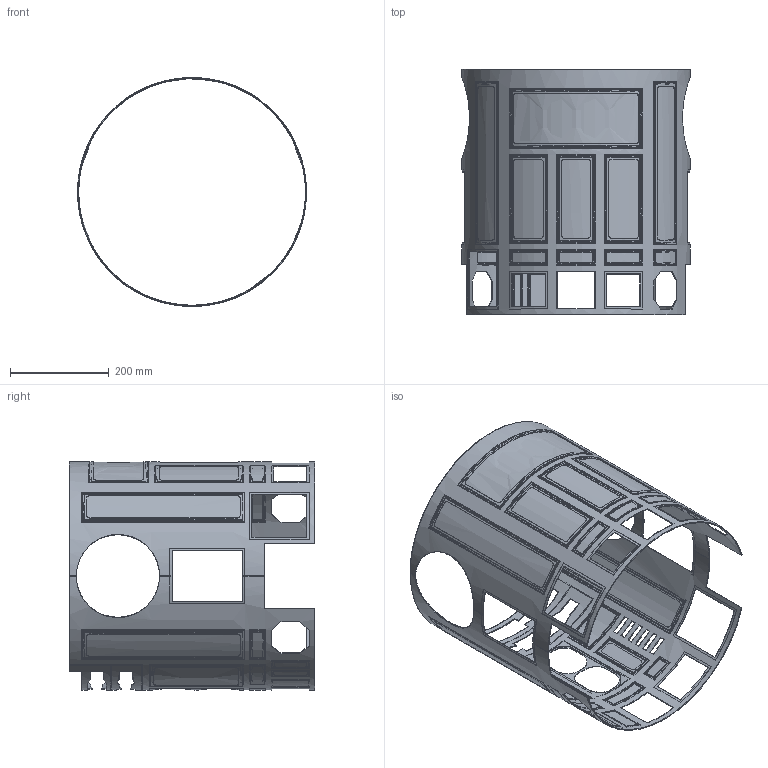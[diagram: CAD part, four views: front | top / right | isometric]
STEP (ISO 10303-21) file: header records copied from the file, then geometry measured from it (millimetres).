
FILE_DESCRIPTION(('STEP AP203'),'1');
FILE_NAME('C:/Documents and Settings/Administrator/My Documents/Dropbox/R2 Everything/R2-D2 Master/Drawings/CSR/CSR - CAD/CSR SKIN Rolled Assembly ESB - 20140501 3D - STEP.stp','2014-05-22T05:25:39',(' '),(' '),'Spatial InterOp 3D',' ',' ');
FILE_SCHEMA(('CONFIG_CONTROL_DESIGN'));
Length unit declared in the file: metre
Products named in the file (56): Outer Rear; Part473; Part474; Part475; Part476; Part477; Part478; Part479; Part480; Part481; Part482; Part67; ESB Skins; Front Outer; Part484; Part485; Part486; Part487; Part488; Part489; Part490; Part491; Part492; Part493; Part494; Part495; Part496; Part497; Part68; Part117; Rear Inside; Part40; Part41; Part42; Part43; Part44; Part45; Part46; Part47; Part48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
Assembly tree (55 placements, depth 3):
  ESB Skins
    Outer Rear
      Part473
      Part474
      Part475
      Part476
      Part477
      Part478
      Part479
      Part480
      Part481
      Part482
      Part67
    Front Outer
      Part484
      Part485
      Part486
      Part487
      Part488
      Part489
      Part490
      Part491
      Part492
      Part493
      Part494
      Part495
      Part496
      Part497
      Part68
      Part117
    Rear Inside
      Part40
      Part41
      Part42
      Part43
      Part44
      Part45
      Part46
      Part47
      Part48
      Part49
      Part69
    Front Inside
      Part50
      Part51
      Part52
      Part53
      Part54
      Part55
      Part56
      Part57
      Part58
      Part59
      Part60
      Part61
      Part73
Bounding box: 463.55 x 496.89 x 463.55 mm (x, y, z)
Volume: 873493.9 mm3; surface area: 1769067.7 mm2
Topology: 51 solids, 51 shells, 804 faces, 2106 edges, 1404 vertices
Faces by surface type: plane 624, bspline 129, offset 51
Entity records: 60954 total; most frequent: CARTESIAN_POINT 40935, ORIENTED_EDGE 4192, DIRECTION 2230, EDGE_CURVE 2096, VERTEX_POINT 1404, B_SPLINE_CURVE_WITH_KNOTS 1234, EDGE_LOOP 998, LINE 862
